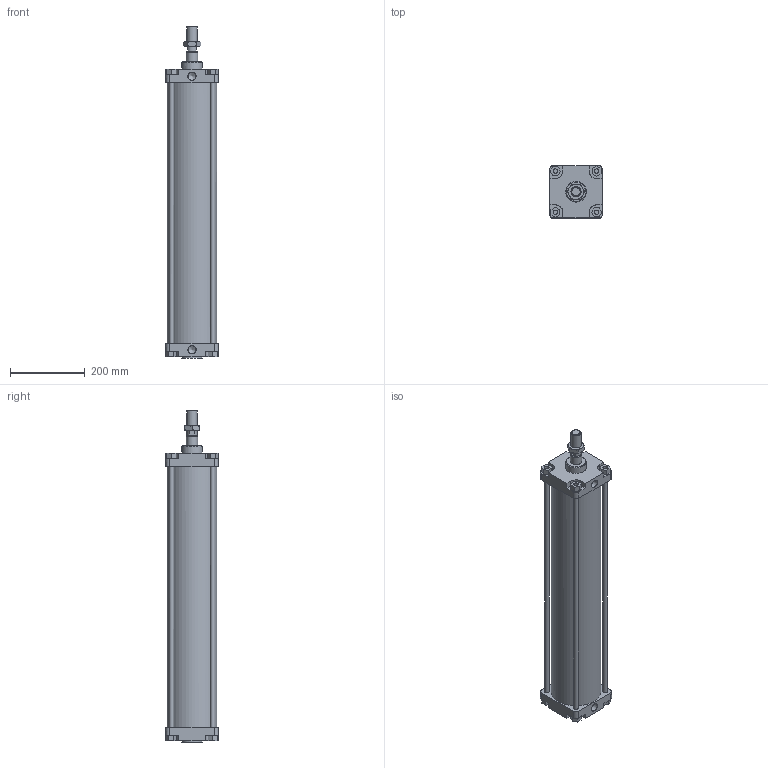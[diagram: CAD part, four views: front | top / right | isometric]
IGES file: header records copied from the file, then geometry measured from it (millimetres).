
Global section: file name: 1305_125_0600_01A; native system: Autodesk Inventor 2014; preprocessor: unknown; author: A. Manieri; date: 20161124.143342; units: millimetre
Bounding box: 140 x 140 x 886 mm (x, y, z)
Volume: 4458113.3 mm3; surface area: 956103.9 mm2
Topology: 9 solids, 9 shells, 175 faces, 440 edges, 295 vertices
Faces by surface type: bspline 175
